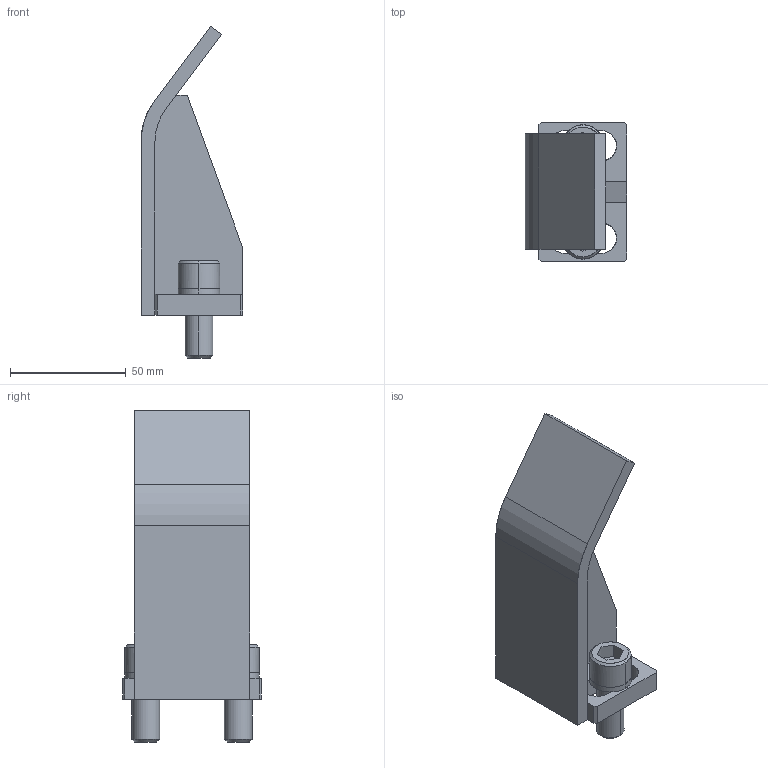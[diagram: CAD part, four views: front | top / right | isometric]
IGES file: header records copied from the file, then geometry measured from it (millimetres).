
Global section: file name: E:\UnigraphicsGraphicData\MISUMI_PRESS-PARTS\IGES\3d_nstfa-85-m12_01622_r00.igs; native system: NX V5.0; preprocessor: UGS NX IGES V5.0; author: MISUMI; date: 20110105.162130; units: millimetre
Bounding box: 44 x 60 x 143.5 mm (x, y, z)
Surface area: 31275.8 mm2 (no closed solid volume)
Topology: 0 solids, 0 shells, 83 faces, 516 edges, 516 vertices
Faces by surface type: bspline 83
